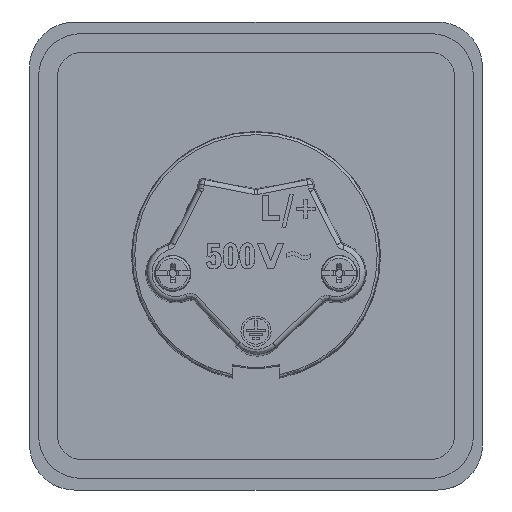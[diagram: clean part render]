
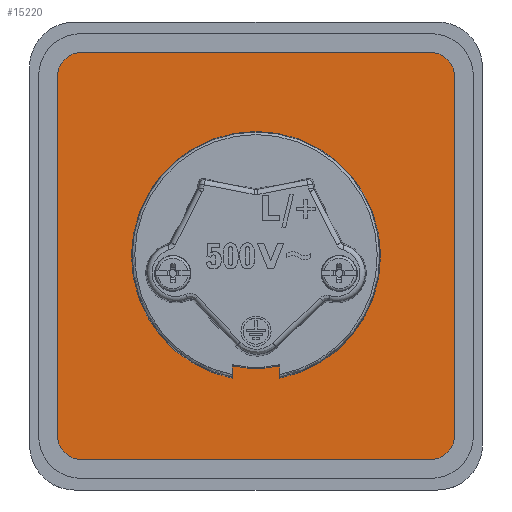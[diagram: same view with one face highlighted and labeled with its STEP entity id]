
A CAD part, top view. The second image highlights one B-rep face of the part: STEP entity #15220.
In plain terms, the highlighted planar face has unit normal (0, 0, 1).
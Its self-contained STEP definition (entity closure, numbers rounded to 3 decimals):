
#3307=DIRECTION('',(0.,1.,0.));
#3308=VECTOR('',#3307,71.4);
#3309=CARTESIAN_POINT('',(-39.453,-35.7,0.));
#3310=LINE('1361',#3309,#3308);
#3311=CARTESIAN_POINT('',(-34.7,35.7,0.));
#3312=DIRECTION('',(0.,0.,1.));
#3313=DIRECTION('',(0.,1.,0.));
#3314=AXIS2_PLACEMENT_3D('',#3311,#3312,#3313);
#3316=DIRECTION('',(1.,0.,0.));
#3317=VECTOR('',#3316,69.4);
#3318=CARTESIAN_POINT('',(-34.7,40.453,0.));
#3319=LINE('1363',#3318,#3317);
#3320=CARTESIAN_POINT('',(34.7,35.7,0.));
#3321=DIRECTION('',(0.,0.,1.));
#3322=DIRECTION('',(1.,0.,0.));
#3323=AXIS2_PLACEMENT_3D('',#3320,#3321,#3322);
#3325=DIRECTION('',(0.,-1.,0.));
#3326=VECTOR('',#3325,71.4);
#3327=CARTESIAN_POINT('',(39.453,35.7,0.));
#3328=LINE('1365',#3327,#3326);
#3329=CARTESIAN_POINT('',(34.7,-35.7,0.));
#3330=DIRECTION('',(0.,0.,1.));
#3331=DIRECTION('',(0.,-1.,0.));
#3332=AXIS2_PLACEMENT_3D('',#3329,#3330,#3331);
#3334=DIRECTION('',(-1.,0.,0.));
#3335=VECTOR('',#3334,69.4);
#3336=CARTESIAN_POINT('',(34.7,-40.453,0.));
#3337=LINE('1367',#3336,#3335);
#3338=CARTESIAN_POINT('',(-34.7,-35.7,0.));
#3339=DIRECTION('',(0.,0.,1.));
#3340=DIRECTION('',(-1.,0.,0.));
#3341=AXIS2_PLACEMENT_3D('',#3338,#3339,#3340);
#3343=DIRECTION('',(0.,1.,0.));
#3344=VECTOR('',#3343,2.439);
#3345=CARTESIAN_POINT('',(4.7,-24.289,0.));
#3346=LINE('1329',#3345,#3344);
#3347=CARTESIAN_POINT('',(0.,0.,0.));
#3348=DIRECTION('',(0.,0.,-1.));
#3349=DIRECTION('',(-0.19,-0.982,0.));
#3350=AXIS2_PLACEMENT_3D('',#3347,#3348,#3349);
#3352=DIRECTION('',(0.,-1.,0.));
#3353=VECTOR('',#3352,2.439);
#3354=CARTESIAN_POINT('',(-4.7,-21.85,0.));
#3355=LINE('1330',#3354,#3353);
#3356=CARTESIAN_POINT('',(0.,0.,0.));
#3357=DIRECTION('',(0.,0.,-1.));
#3358=DIRECTION('',(0.21,-0.978,0.));
#3359=AXIS2_PLACEMENT_3D('',#3356,#3357,#3358);
#7803=CARTESIAN_POINT('',(4.7,-24.289,0.));
#7804=CARTESIAN_POINT('',(4.7,-21.85,0.));
#7805=VERTEX_POINT('',#7803);
#7806=VERTEX_POINT('',#7804);
#7807=CARTESIAN_POINT('',(-4.7,-21.85,0.));
#7808=CARTESIAN_POINT('',(-4.7,-24.289,0.));
#7809=VERTEX_POINT('',#7807);
#7810=VERTEX_POINT('',#7808);
#7859=CARTESIAN_POINT('',(-39.453,-35.7,0.));
#7860=CARTESIAN_POINT('',(-39.453,35.7,0.));
#7861=VERTEX_POINT('',#7859);
#7862=VERTEX_POINT('',#7860);
#7863=CARTESIAN_POINT('',(-34.7,40.453,0.));
#7864=VERTEX_POINT('',#7863);
#7865=CARTESIAN_POINT('',(34.7,40.453,0.));
#7866=VERTEX_POINT('',#7865);
#7867=CARTESIAN_POINT('',(39.453,35.7,0.));
#7868=VERTEX_POINT('',#7867);
#7869=CARTESIAN_POINT('',(39.453,-35.7,0.));
#7870=VERTEX_POINT('',#7869);
#7871=CARTESIAN_POINT('',(34.7,-40.453,0.));
#7872=VERTEX_POINT('',#7871);
#7873=CARTESIAN_POINT('',(-34.7,-40.453,0.));
#7874=VERTEX_POINT('',#7873);
#15188=CARTESIAN_POINT('',(-45.,46.5,0.));
#15189=DIRECTION('',(0.,0.,1.));
#15190=DIRECTION('',(0.,-1.,0.));
#15191=AXIS2_PLACEMENT_3D('',#15188,#15189,#15190);
#15192=PLANE('454',#15191);
#15193=ORIENTED_EDGE('1361',*,*,#15166,.T.);
#15195=ORIENTED_EDGE('1362',*,*,#15194,.F.);
#15197=ORIENTED_EDGE('1363',*,*,#15196,.T.);
#15199=ORIENTED_EDGE('1364',*,*,#15198,.F.);
#15201=ORIENTED_EDGE('1365',*,*,#15200,.T.);
#15203=ORIENTED_EDGE('1366',*,*,#15202,.F.);
#15205=ORIENTED_EDGE('1367',*,*,#15204,.T.);
#15207=ORIENTED_EDGE('1368',*,*,#15206,.F.);
#15208=EDGE_LOOP('454',(#15193,#15195,#15197,#15199,#15201,#15203,#15205,
#15207));
#15209=FACE_OUTER_BOUND('454',#15208,.F.);
#15211=ORIENTED_EDGE('1329',*,*,#15210,.F.);
#15213=ORIENTED_EDGE('1331',*,*,#15212,.F.);
#15215=ORIENTED_EDGE('1330',*,*,#15214,.F.);
#15217=ORIENTED_EDGE('1332',*,*,#15216,.F.);
#15218=EDGE_LOOP('454',(#15211,#15213,#15215,#15217));
#15219=FACE_BOUND('454',#15218,.F.);
#3315=CIRCLE('1362',#3314,4.753);
#3324=CIRCLE('1364',#3323,4.753);
#3333=CIRCLE('1366',#3332,4.753);
#3342=CIRCLE('1368',#3341,4.753);
#3351=CIRCLE('1331',#3350,24.74);
#3360=CIRCLE('1332',#3359,22.35);
#15166=EDGE_CURVE('1361',#7861,#7862,#3310,.T.);
#15194=EDGE_CURVE('1362',#7864,#7862,#3315,.T.);
#15196=EDGE_CURVE('1363',#7864,#7866,#3319,.T.);
#15198=EDGE_CURVE('1364',#7868,#7866,#3324,.T.);
#15200=EDGE_CURVE('1365',#7868,#7870,#3328,.T.);
#15202=EDGE_CURVE('1366',#7872,#7870,#3333,.T.);
#15204=EDGE_CURVE('1367',#7872,#7874,#3337,.T.);
#15206=EDGE_CURVE('1368',#7861,#7874,#3342,.T.);
#15210=EDGE_CURVE('1329',#7805,#7806,#3346,.T.);
#15212=EDGE_CURVE('1331',#7810,#7805,#3351,.T.);
#15214=EDGE_CURVE('1330',#7809,#7810,#3355,.T.);
#15216=EDGE_CURVE('1332',#7806,#7809,#3360,.T.);
#15220=ADVANCED_FACE('454',(#15209,#15219),#15192,.T.);
